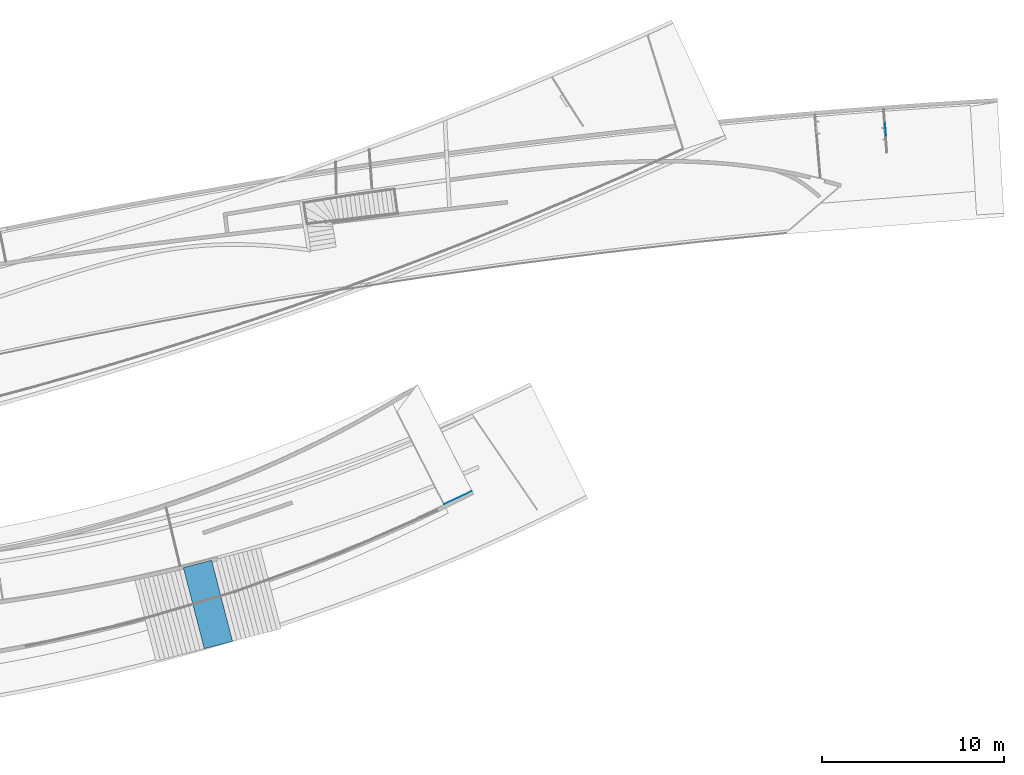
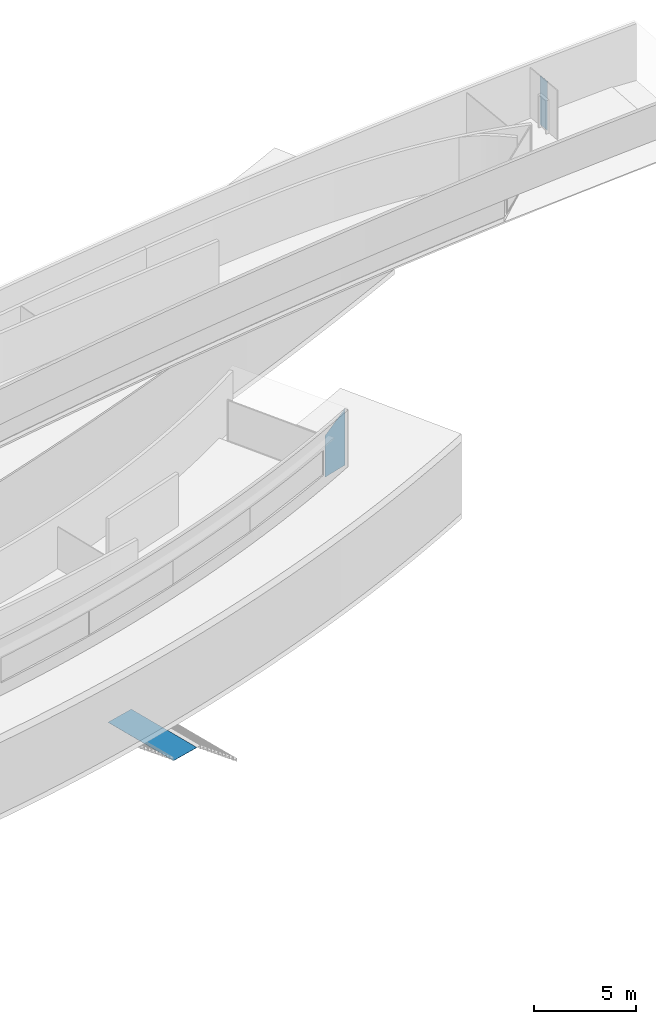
# Not in any storey, part 9 of 14: 2 walls, 1 stair.
"""IFC2X3 model written with IfcOpenShell, lengths in millimetres."""

from ifc_helpers import new_model, entity, si_unit, converted_unit, direction, frame, origin_with_axes, place, context, project, spatial, polyline, outline, extrude, open_shell, faceted_brep, surface_model, material, layer, layer_set, layer_usage, type_object, element, save


model = new_model("IFC2X3")

# Units and contexts
model_context = context("Model", 3, precision=1.0, world=origin_with_axes(), true_north=direction((0.0, 1.0)))
ifc_project = project(units=[si_unit("LENGTHUNIT", "METRE", prefix="MILLI"), converted_unit("PLANEANGLEUNIT", "DEGREE", entity("IfcRatioMeasure", 0.017453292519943), si_unit("PLANEANGLEUNIT", "RADIAN"), dimensions=[0, 0, 0, 0, 0, 0, 0])], contexts=[model_context])

# Site
site_placement = place(None, origin_with_axes())
site = spatial("IfcSite", under=ifc_project, at=site_placement, Name="Site", CompositionType="ELEMENT")

# Walls
ifc_material = material(Name="Wall layer 1")
ifc_layer = layer(ifc_material, 50.0)
ifc_layer_set = layer_set([ifc_layer], Name="HOKI 50mm")
ifc_layer_usage = layer_usage(ifc_layer_set, "AXIS2", "POSITIVE", -25.0)
wall_type = type_object("IfcWallType", Name="HOKI 50mm", PredefinedType="STANDARD", material=ifc_layer_set)
wall_1_placement = place(site_placement, frame((45608.7590642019, 13291.3967131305, 9850.0), z_axis=(0.0, 0.0, 1.0), x_axis=(0.075069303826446, -0.997178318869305, 0.0)))
element("IfcWallStandardCase", 1, at=wall_1_placement, inside=site, type_object=wall_type, material=ifc_layer_usage, ObjectType="HOKI 50mm", context=model_context, shape_type="SweptSolid", body=[
    extrude(outline(polyline([(659.313751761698, 23.6701591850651), (1.819e-12, 23.7851729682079), (1.819e-12, 24.9999999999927), (659.313751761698, 25.0), (659.313751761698, 23.6701591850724)])), origin_with_axes(), (0.0, 0.0, 1.0), 2950.0),
])
wall_2_placement = place(site_placement, origin_with_axes())
element("IfcWall", 2, at=wall_2_placement, inside=site, Name="edge", context=model_context, shape_type="SurfaceModel", body=[
    surface_model("IfcShellBasedSurfaceModel", [(22941.4519621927, -6865.47315676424, 13000.0), (22941.4519621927, -6865.47315676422, 9600.0), (22180.4351056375, -7222.82306952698, 9725.0), (21419.4182490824, -7580.1729822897, 9850.0), (21419.4182490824, -7580.17298228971, 12350.0), (22180.4351056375, -7222.82306952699, 12675.0)], [open_shell([[[0, 1, 2, 3, 4, 5]]])]),
])

# Stair
stair_placement = place(site_placement, origin_with_axes())
element("IfcStair", 3, at=stair_placement, inside=site, context=model_context, shape_type="Brep", body=[
    faceted_brep([(7092.66471844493, -11067.7232813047, 2290.92993472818), (7092.66471844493, -11067.7232813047, 2300.92993472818), (8648.64251722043, -10666.0772000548, 2300.92993472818), (8648.64251722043, -10666.0772000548, 2290.92993472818), (8648.64251722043, -10666.0772000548, 2300.92993472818), (7092.66471844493, -11067.7232813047, 2300.92993472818), (8242.33236918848, -15521.538279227, 2300.92993472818), (9798.31016796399, -15119.8921979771, 2300.92993472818), (7092.66471844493, -11067.7232813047, 2290.92993472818), (8242.33236918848, -15521.538279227, 2290.92993472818), (8242.33236918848, -15521.538279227, 2300.92993472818), (7092.66471844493, -11067.7232813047, 2300.92993472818), (9798.31016796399, -15119.8921979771, 2290.92993472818), (9798.31016796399, -15119.8921979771, 2300.92993472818), (8242.33236918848, -15521.538279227, 2300.92993472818), (8242.33236918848, -15521.538279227, 2290.92993472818), (7092.66471844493, -11067.7232813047, 2290.92993472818), (8648.64251722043, -10666.0772000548, 2290.92993472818), (9798.31016796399, -15119.8921979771, 2290.92993472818), (8242.33236918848, -15521.538279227, 2290.92993472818), (9798.31016796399, -15119.8921979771, 2300.92993472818), (9798.31016796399, -15119.8921979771, 2290.92993472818), (8648.64251722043, -10666.0772000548, 2290.92993472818), (8648.64251722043, -10666.0772000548, 2300.92993472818)], [[[0, 1, 2, 3]], [[4, 5, 6, 7]], [[8, 9, 10, 11]], [[12, 13, 14, 15]], [[16, 17, 18, 19]], [[20, 21, 22, 23]]]),
])

save(model, "model.ifc")
